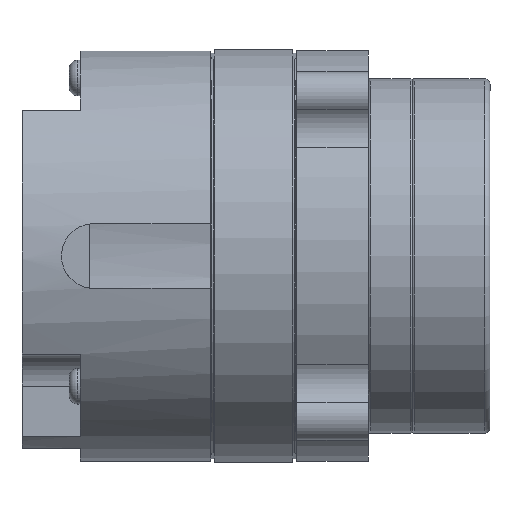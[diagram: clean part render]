
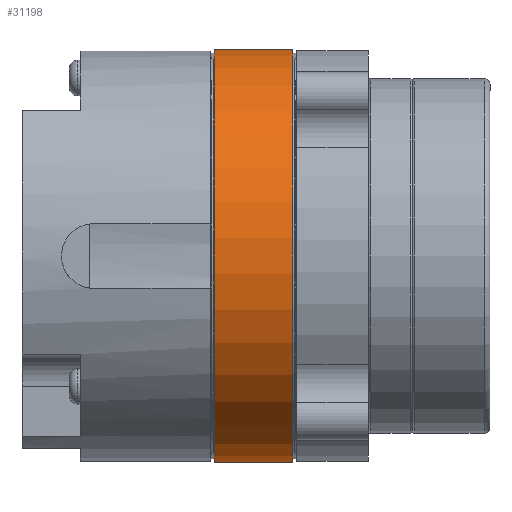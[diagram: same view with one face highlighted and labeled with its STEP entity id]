
A CAD part, front view. The second image highlights one B-rep face of the part: STEP entity #31198.
In plain terms, the highlighted cylindrical face has radius 32 mm (diameter 64 mm), a full revolution.
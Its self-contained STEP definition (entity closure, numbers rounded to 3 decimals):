
#3736 = DIRECTION ( 'NONE',  ( 0., -1., 0. ) ) ;
#6175 = EDGE_CURVE ( 'NONE', #28371, #28371, #24403, .T. ) ;
#6987 = CARTESIAN_POINT ( 'NONE',  ( 0., 0., 0. ) ) ;
#8953 = AXIS2_PLACEMENT_3D ( 'NONE', #29403, #24338, #21477 ) ;
#10190 = VERTEX_POINT ( 'NONE', #28329 ) ;
#10555 = CIRCLE ( 'NONE', #8953, 32. ) ;
#10639 = ORIENTED_EDGE ( 'NONE', *, *, #24167, .F. ) ;
#11557 = AXIS2_PLACEMENT_3D ( 'NONE', #6987, #26648, #13907 ) ;
#12501 = EDGE_LOOP ( 'NONE', ( #10639 ) ) ;
#13835 = FACE_OUTER_BOUND ( 'NONE', #23263, .T. ) ;
#13907 = DIRECTION ( 'NONE',  ( 0., 0., 1. ) ) ;
#18090 = CARTESIAN_POINT ( 'NONE',  ( 0., 0., 32. ) ) ;
#18886 = AXIS2_PLACEMENT_3D ( 'NONE', #24065, #3736, #21703 ) ;
#21477 = DIRECTION ( 'NONE',  ( 0., 0., 1. ) ) ;
#21703 = DIRECTION ( 'NONE',  ( 0., 0., -1. ) ) ;
#23263 = EDGE_LOOP ( 'NONE', ( #33016 ) ) ;
#24065 = CARTESIAN_POINT ( 'NONE',  ( 0., 12.12, 0. ) ) ;
#24167 = EDGE_CURVE ( 'NONE', #10190, #10190, #10555, .T. ) ;
#24338 = DIRECTION ( 'NONE',  ( 0., 1., 0. ) ) ;
#24403 = CIRCLE ( 'NONE', #11557, 32. ) ;
#26648 = DIRECTION ( 'NONE',  ( 0., 1., 0. ) ) ;
#26754 = CYLINDRICAL_SURFACE ( 'NONE', #18886, 32. ) ;
#27082 = FACE_OUTER_BOUND ( 'NONE', #12501, .T. ) ;
#28329 = CARTESIAN_POINT ( 'NONE',  ( 0., 12.12, 32. ) ) ;
#28371 = VERTEX_POINT ( 'NONE', #18090 ) ;
#29403 = CARTESIAN_POINT ( 'NONE',  ( 0., 12.12, 0. ) ) ;
#31198 = ADVANCED_FACE ( 'NONE', ( #27082, #13835 ), #26754, .T. ) ;
#33016 = ORIENTED_EDGE ( 'NONE', *, *, #6175, .T. ) ;
